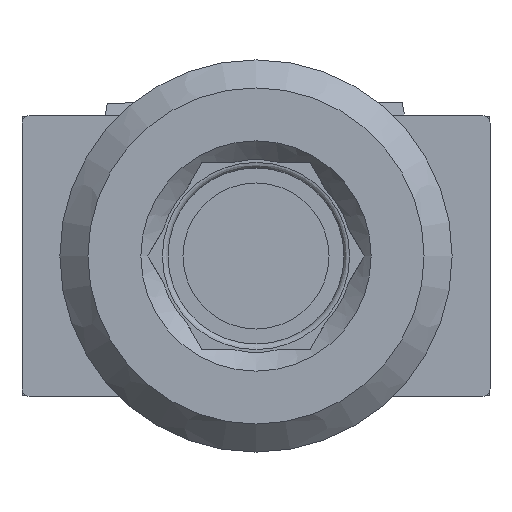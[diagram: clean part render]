
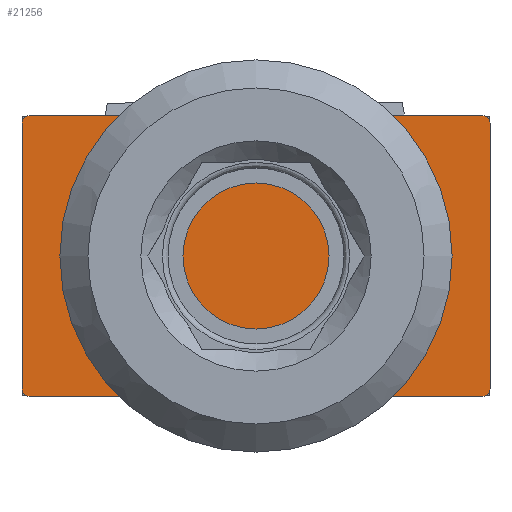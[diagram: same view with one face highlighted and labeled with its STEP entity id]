
A CAD part, front view. The second image highlights one B-rep face of the part: STEP entity #21256.
In plain terms, the highlighted planar face has unit normal (0, -1, 0).
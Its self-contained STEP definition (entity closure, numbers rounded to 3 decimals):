
#19784=CARTESIAN_POINT('',(216.006,-105.1,-176.766));
#19785=VERTEX_POINT('',#19784);
#19792=CARTESIAN_POINT('',(216.406,-105.1,-176.366));
#19793=VERTEX_POINT('',#19792);
#19794=CARTESIAN_POINT('',(216.406,-105.1,-176.766));
#19795=DIRECTION('',(0.0,1.0,0.0));
#19796=DIRECTION('',(-1.0,0.0,0.0));
#19797=AXIS2_PLACEMENT_3D('',#19794,#19795,#19796);
#19798=CIRCLE('',#19797,0.4);
#19799=EDGE_CURVE('',#19785,#19793,#19798,.T.);
#19824=CARTESIAN_POINT('',(241.006,-105.1,-176.766));
#19825=VERTEX_POINT('',#19824);
#19843=CARTESIAN_POINT('',(240.606,-105.1,-176.366));
#19844=VERTEX_POINT('',#19843);
#19851=CARTESIAN_POINT('',(240.606,-105.1,-176.766));
#19852=DIRECTION('',(0.0,-1.0,0.0));
#19853=DIRECTION('',(1.0,0.0,0.0));
#19854=AXIS2_PLACEMENT_3D('',#19851,#19852,#19853);
#19855=CIRCLE('',#19854,0.4);
#19856=EDGE_CURVE('',#19825,#19844,#19855,.T.);
#19956=CARTESIAN_POINT('',(216.406,-105.1,-191.366));
#19957=VERTEX_POINT('',#19956);
#19964=CARTESIAN_POINT('',(216.006,-105.1,-190.966));
#19965=VERTEX_POINT('',#19964);
#19966=CARTESIAN_POINT('',(216.406,-105.1,-190.966));
#19967=DIRECTION('',(0.0,1.0,0.0));
#19968=DIRECTION('',(0.0,0.0,-1.0));
#19969=AXIS2_PLACEMENT_3D('',#19966,#19967,#19968);
#19970=CIRCLE('',#19969,0.4);
#19971=EDGE_CURVE('',#19957,#19965,#19970,.T.);
#19988=CARTESIAN_POINT('',(240.606,-105.1,-191.366));
#19989=VERTEX_POINT('',#19988);
#19997=CARTESIAN_POINT('',(241.006,-105.1,-190.966));
#19998=VERTEX_POINT('',#19997);
#20005=CARTESIAN_POINT('',(240.606,-105.1,-190.966));
#20006=DIRECTION('',(0.0,-1.0,0.0));
#20007=DIRECTION('',(0.0,0.0,-1.0));
#20008=AXIS2_PLACEMENT_3D('',#20005,#20006,#20007);
#20009=CIRCLE('',#20008,0.4);
#20010=EDGE_CURVE('',#19989,#19998,#20009,.T.);
#20022=CARTESIAN_POINT('',(216.006,-105.1,-190.966));
#20023=DIRECTION('',(0.0,0.0,1.0));
#20024=VECTOR('',#20023,14.2);
#20025=LINE('',#20022,#20024);
#20026=EDGE_CURVE('',#19965,#19785,#20025,.T.);
#20037=CARTESIAN_POINT('',(216.406,-105.1,-191.366));
#20038=DIRECTION('',(1.0,0.0,0.0));
#20039=VECTOR('',#20038,24.2);
#20040=LINE('',#20037,#20039);
#20041=EDGE_CURVE('',#19957,#19989,#20040,.T.);
#20054=CARTESIAN_POINT('',(241.006,-105.1,-190.966));
#20055=DIRECTION('',(0.0,0.0,1.0));
#20056=VECTOR('',#20055,14.2);
#20057=LINE('',#20054,#20056);
#20058=EDGE_CURVE('',#19998,#19825,#20057,.T.);
#20158=CARTESIAN_POINT('',(216.406,-105.1,-176.366));
#20159=DIRECTION('',(1.0,0.0,0.0));
#20160=VECTOR('',#20159,24.2);
#20161=LINE('',#20158,#20160);
#20162=EDGE_CURVE('',#19793,#19844,#20161,.T.);
#21241=CARTESIAN_POINT('',(215.996,-105.1,-191.376));
#21242=DIRECTION('',(0.0,-1.0,0.0));
#21243=DIRECTION('',(1.0,0.0,0.0));
#21244=AXIS2_PLACEMENT_3D('',#21241,#21242,#21243);
#21245=PLANE('',#21244);
#21246=ORIENTED_EDGE('',*,*,#20041,.T.);
#21247=ORIENTED_EDGE('',*,*,#20010,.T.);
#21248=ORIENTED_EDGE('',*,*,#20058,.T.);
#21249=ORIENTED_EDGE('',*,*,#19856,.T.);
#21250=ORIENTED_EDGE('',*,*,#20162,.F.);
#21251=ORIENTED_EDGE('',*,*,#19799,.F.);
#21252=ORIENTED_EDGE('',*,*,#20026,.F.);
#21253=ORIENTED_EDGE('',*,*,#19971,.F.);
#21254=EDGE_LOOP('',(#21246,#21247,#21248,#21249,#21250,#21251,#21252,#21253));
#21255=FACE_OUTER_BOUND('',#21254,.T.);
#21256=ADVANCED_FACE('',(#21255),#21245,.T.);
